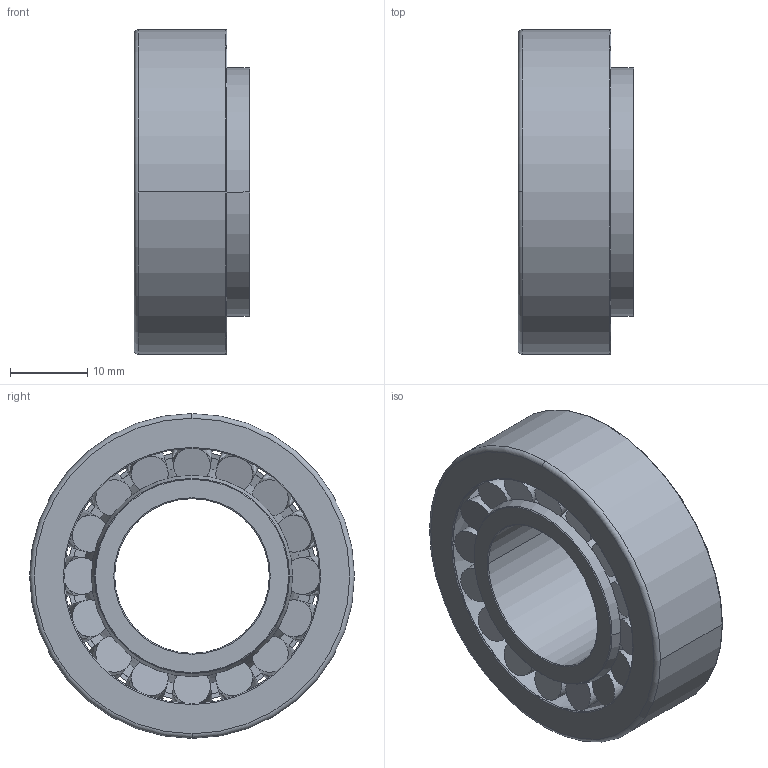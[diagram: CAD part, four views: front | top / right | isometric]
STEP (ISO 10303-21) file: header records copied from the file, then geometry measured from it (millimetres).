
FILE_DESCRIPTION(('STEP AP203'),'1');
FILE_NAME('skf_bearing_32004_x_2.stp','2024-11-13T16:17:47',('TraceParts'),('TraceParts S.A.'),'Spatial InterOp 3D',' ',' ');
FILE_SCHEMA(('CONFIG_CONTROL_DESIGN'));
Length unit declared in the file: millimetre
Products named in the file (1): 1
Bounding box: 15 x 42 x 42 mm (x, y, z)
Volume: 11903.7 mm3; surface area: 10229.6 mm2
Topology: 3 solids, 3 shells, 132 faces, 279 edges, 183 vertices
Faces by surface type: cone 46, torus 44, plane 36, cylinder 6
Entity records: 4766 total; most frequent: CARTESIAN_POINT 1813, DIRECTION 648, ORIENTED_EDGE 558, AXIS2_PLACEMENT_3D 298, EDGE_CURVE 279, VERTEX_POINT 183, EDGE_LOOP 168, CIRCLE 163
